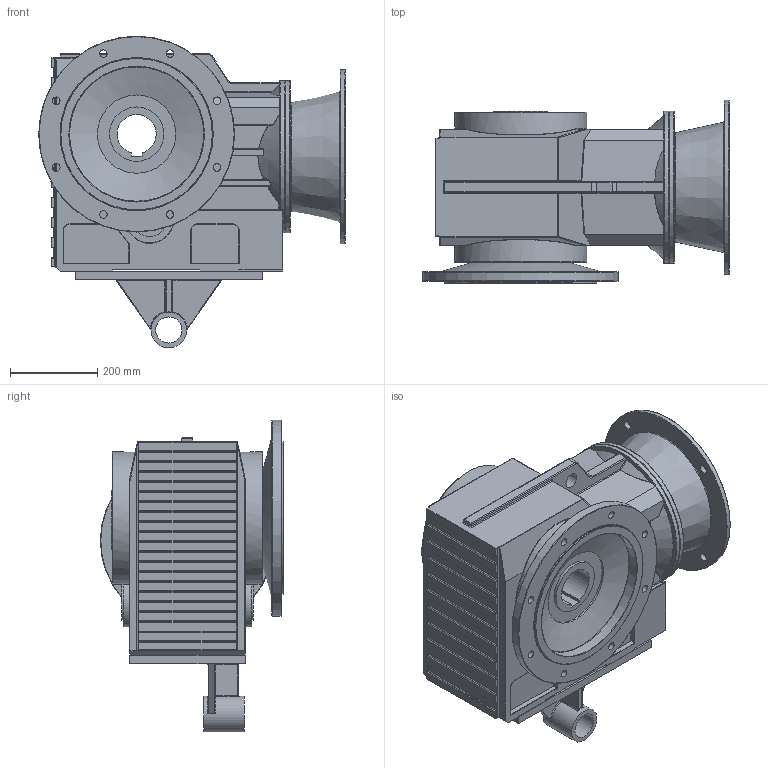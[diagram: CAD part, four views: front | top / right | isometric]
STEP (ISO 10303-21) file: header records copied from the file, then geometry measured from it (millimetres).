
FILE_DESCRIPTION((''),'2;1');
FILE_NAME('F:\PAWEŁ\ZLECENIA\2011 DualSystem\Przekładnie DK\001 Modele\DKAB100_\DK_100_STEP\DK_A_100_AT_AF_200_B5_L138,5.stp','2012-06-26T19:24:44',('admin'),(''),'Autodesk Inventor 2009','Autodesk Inventor 2009','');
FILE_SCHEMA(('AUTOMOTIVE_DESIGN { 1 0 10303 214 1 1 1 1 }'));
Length unit declared in the file: millimetre
Products named in the file (5): DK_A_100_AT_AF_200_B5_L138,5 (Poziom szczegółów1); 200_B5_L138,5; AF_F_100; AT_100; DK_A_100
Assembly tree (4 placements, depth 2):
  DK_A_100_AT_AF_200_B5_L138,5 (Poziom szczegółów1)
    200_B5_L138,5
    AF_F_100
    AT_100
    DK_A_100
Bounding box: 704.5 x 421 x 716 mm (x, y, z)
Volume: 74252502.6 mm3; surface area: 2570699.5 mm2
Topology: 4 solids, 4 shells, 661 faces, 1610 edges, 958 vertices
Faces by surface type: cylinder 245, bspline 167, plane 159, torus 74, cone 8, sphere 8
Full cylindrical faces by diameter (mm): 20.752 x4, 24 x4, 35 x1, 60 x1, 75 x1, 80 x1, 82 x1, 125 x1, 180 x1, 224 x1, 250 x1, 287.717 x1, 300 x1, 310 x1, 350 x3, 400 x1, 450 x1
Entity records: 26091 total; most frequent: CARTESIAN_POINT 11277, ORIENTED_EDGE 3034, DIRECTION 2991, EDGE_CURVE 1517, AXIS2_PLACEMENT_3D 1193, VERTEX_POINT 949, EDGE_LOOP 786, FACE_OUTER_BOUND 661
